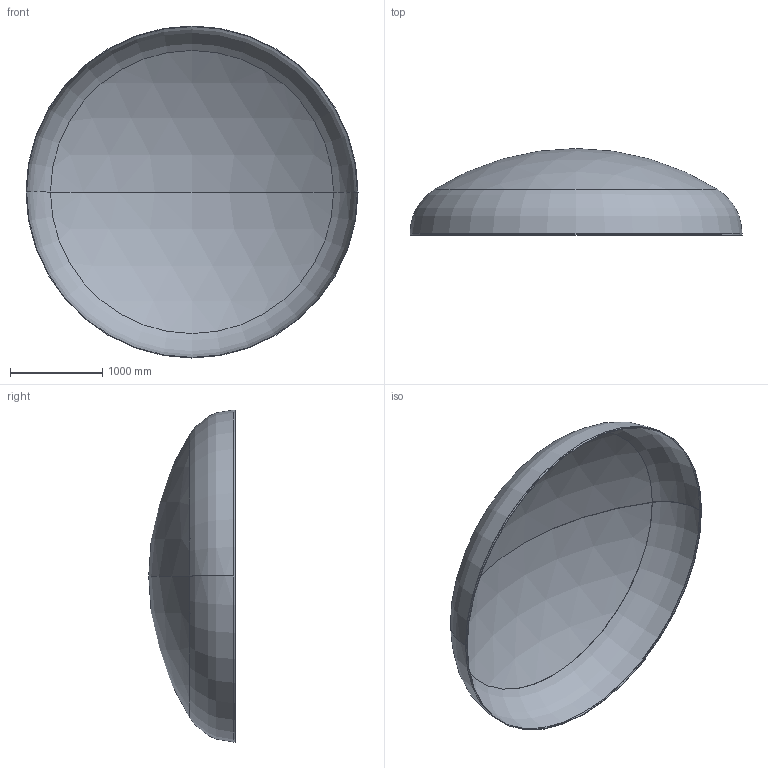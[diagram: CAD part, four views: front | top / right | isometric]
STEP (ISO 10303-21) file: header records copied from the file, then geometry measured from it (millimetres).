
FILE_DESCRIPTION (( 'STEP AP203' ), '1' );
FILE_NAME ('DIN 28013 Korbbogenform_-_Boden DIN 28013 - 3600 x 20 - I - s=6.step', '2016-07-01T20:01:49', ( '' ), ( '' ), 'SwSTEP 2.0', 'SolidWorks 2013', '' );
FILE_SCHEMA (( 'CONFIG_CONTROL_DESIGN' ));
Length unit declared in the file: millimetre
Products named in the file (1): DIN 28013 Korbbogenform_-_Boden DIN 28013 - 3600 x 20 - I - s=6
Bounding box: 3600 x 938.64 x 3600 mm (x, y, z)
Volume: 85779442.1 mm3; surface area: 28660956.2 mm2
Topology: 1 solids, 1 shells, 13 faces, 24 edges, 14 vertices
Faces by surface type: torus 4, cylinder 4, sphere 4, plane 1
Entity records: 407 total; most frequent: DIRECTION 72, CARTESIAN_POINT 52, ORIENTED_EDGE 48, AXIS2_PLACEMENT_3D 34, EDGE_CURVE 24, CIRCLE 20, VERTEX_POINT 14, EDGE_LOOP 14
